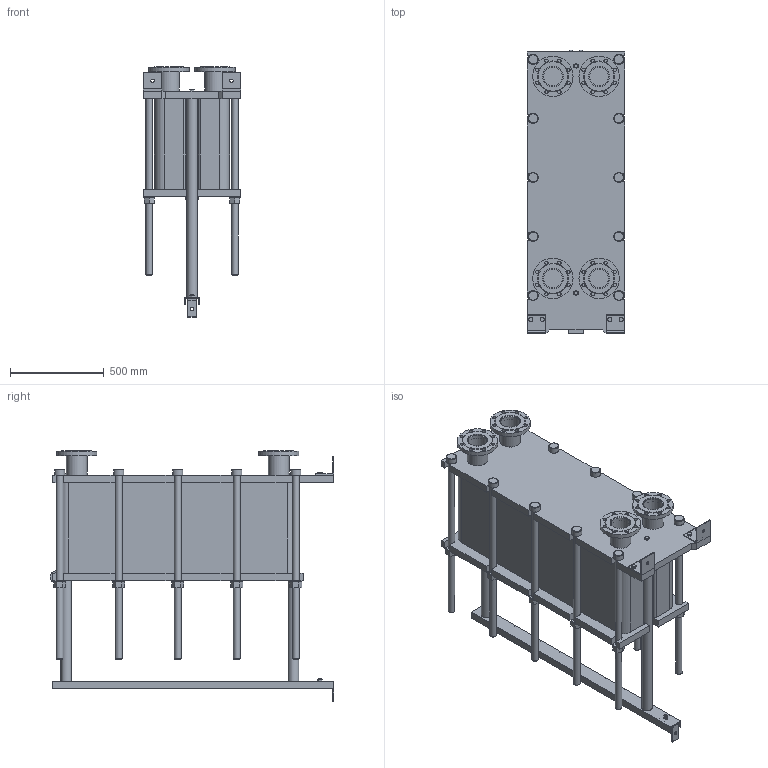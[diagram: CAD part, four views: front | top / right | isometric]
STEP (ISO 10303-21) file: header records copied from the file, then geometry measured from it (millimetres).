
FILE_DESCRIPTION(/* description */ (''),/* implementation_level */ '2;1');
FILE_NAME(/* name */ 'C:\Users\zhuro\Desktop\ENCO\TO\ЭН-04\ЭН-0,5-04-140-1.stp',/* time_stamp */ '2022-06-06T10:57:58+03:00',/* author */ ('zhuro'),/* organization */ (''),/* preprocessor_version */ 'ST-DEVELOPER v18.1',/* originating_system */ 'Autodesk Inventor 2022',/* authorisation */ '');
FILE_SCHEMA (('AUTOMOTIVE_DESIGN { 1 0 10303 214 3 1 1 }'));
Length unit declared in the file: millimetre
Products named in the file (1): ЭН-0,5-04-140-1
Bounding box: 520 x 1510 x 1335 mm (x, y, z)
Volume: 314741293.4 mm3; surface area: 9234865.7 mm2
Topology: 45 solids, 45 shells, 668 faces, 1611 edges, 1048 vertices
Faces by surface type: plane 457, cylinder 166, cone 39, torus 6
Full cylindrical faces by diameter (mm): 8 x4, 10 x2, 16 x8, 18 x35, 36 x25, 40 x2, 42 x1, 45 x4, 54 x10, 57 x2, 60 x10, 68 x2, 100 x4, 110 x8, 215 x4
Entity records: 23607 total; most frequent: CARTESIAN_POINT 7348, DIRECTION 3371, ORIENTED_EDGE 3142, EDGE_CURVE 1571, AXIS2_PLACEMENT_3D 1199, VERTEX_POINT 1044, LINE 973, VECTOR 973
